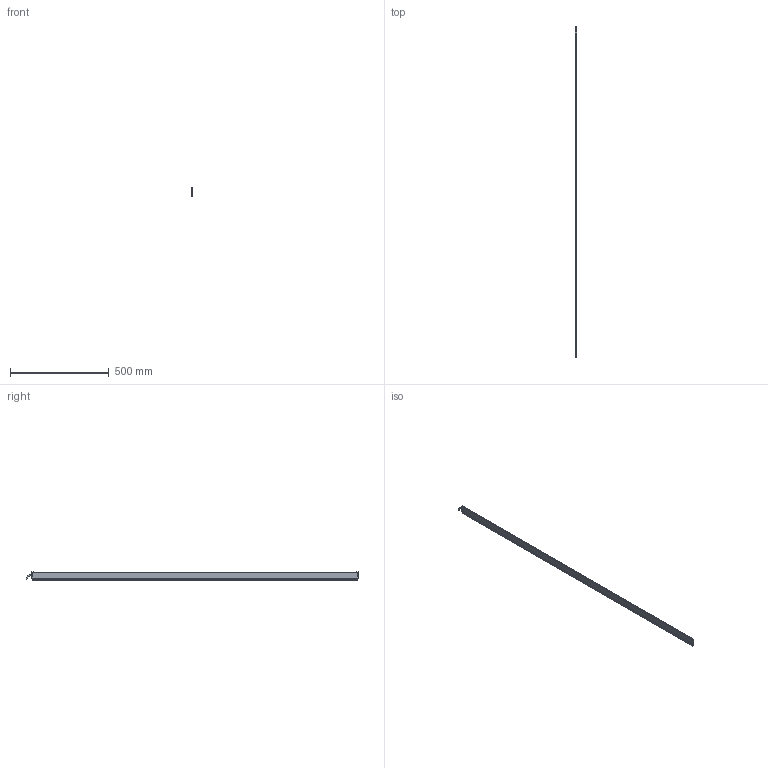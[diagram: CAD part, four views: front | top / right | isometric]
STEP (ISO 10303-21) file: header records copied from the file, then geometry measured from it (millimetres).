
FILE_DESCRIPTION (( 'STEP AP214' ), '1' );
FILE_NAME ('ILG-L-K1-1657mm.STEP', '2017-07-11T07:16:29', ( '' ), ( '' ), 'SwSTEP 2.0', 'SolidWorks 2016', '' );
FILE_SCHEMA (( 'AUTOMOTIVE_DESIGN' ));
Length unit declared in the file: millimetre
Products named in the file (1): ILG-L-K1-1657mm
Bounding box: 9 x 1685.25 x 40.71 mm (x, y, z)
Volume: 234288.5 mm3; surface area: 326133.8 mm2
Topology: 9 solids, 9 shells, 430 faces, 1108 edges, 698 vertices
Faces by surface type: plane 205, cylinder 151, cone 64, torus 10
Entity records: 17910 total; most frequent: CARTESIAN_POINT 2385, DIRECTION 2328, ORIENTED_EDGE 2200, EDGE_CURVE 1100, AXIS2_PLACEMENT_3D 849, VERTEX_POINT 698, LINE 630, VECTOR 630
